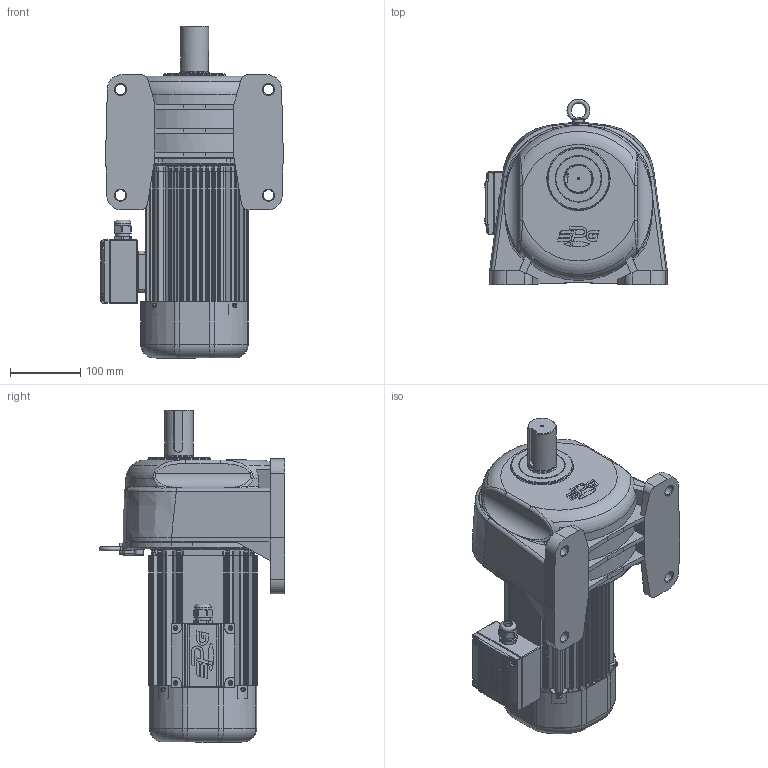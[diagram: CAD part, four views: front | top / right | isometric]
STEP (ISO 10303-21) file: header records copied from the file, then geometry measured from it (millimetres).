
FILE_DESCRIPTION(/* description */ (''),/* implementation_level */ '2;1');
FILE_NAME(/* name */ 'Z:\동력 3D 파일\PAL40-(100~200)-PC(D)075[ ]L_(3D).stp',/* time_stamp */ '2021-10-18T17:28:02+09:00',/* author */ ('jaebok'),/* organization */ (''),/* preprocessor_version */ 'ST-DEVELOPER v18.1',/* originating_system */ 'Autodesk Inventor 2022',/* authorisation */ '');
FILE_SCHEMA (('AUTOMOTIVE_DESIGN { 1 0 10303 214 3 1 1 }'));
Length unit declared in the file: millimetre
Products named in the file (1): 부품9
Bounding box: 259 x 263.29 x 471 mm (x, y, z)
Volume: 4088538.3 mm3; surface area: 943447.5 mm2
Topology: 1 solids, 32 shells, 3212 faces, 8219 edges, 4949 vertices
Faces by surface type: plane 1075, cylinder 921, bspline 729, torus 263, cone 152, sphere 72
Full cylindrical faces by diameter (mm): 2 x2, 3.25 x1, 3.6 x4, 4 x18, 5 x13, 6 x5, 6.8 x5, 7 x13, 8 x12, 9 x4, 10 x1, 12 x4, 12.5 x1, 13 x4, 15 x5, 20 x2, 20.6 x1, 21 x2, 23.6 x1, 25 x1, 27.8 x1, 28 x1, 35 x1, 39.8 x2, 40 x2, 41.8 x1, 42 x2, 44 x2, 45 x1, 52 x3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
Entity records: 127629 total; most frequent: CARTESIAN_POINT 51035, ORIENTED_EDGE 16066, DIRECTION 14469, EDGE_CURVE 8033, AXIS2_PLACEMENT_3D 5716, VERTEX_POINT 4945, EDGE_LOOP 3407, FACE_OUTER_BOUND 3212
